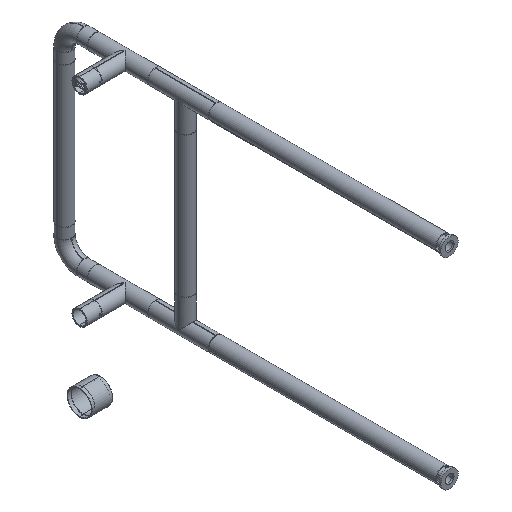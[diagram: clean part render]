
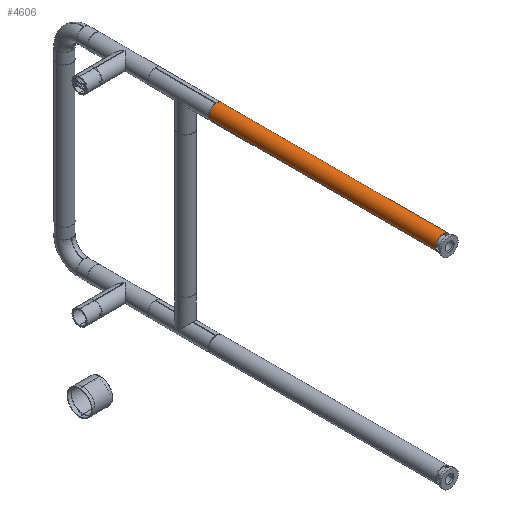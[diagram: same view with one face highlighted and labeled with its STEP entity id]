
A CAD part, isometric view. The second image highlights one B-rep face of the part: STEP entity #4606.
In plain terms, the highlighted cylindrical face has radius 17.5 mm (diameter 35 mm), a partial arc.
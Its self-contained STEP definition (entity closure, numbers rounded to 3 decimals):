
#76 = CARTESIAN_POINT ( 'NONE',  ( -17.5, 0., 262.5 ) ) ;
#363 = CARTESIAN_POINT ( 'NONE',  ( 17.5, 0., 262.5 ) ) ;
#386 = LINE ( 'NONE', #363, #1690 ) ;
#400 = AXIS2_PLACEMENT_3D ( 'NONE', #2979, #2675, #4119 ) ;
#483 = CIRCLE ( 'NONE', #2322, 17.5 ) ;
#491 = CIRCLE ( 'NONE', #571, 17.5 ) ;
#554 = DIRECTION ( 'NONE',  ( 0., 0., 1. ) ) ;
#559 = ORIENTED_EDGE ( 'NONE', *, *, #1473, .T. ) ;
#571 = AXIS2_PLACEMENT_3D ( 'NONE', #4556, #1903, #4587 ) ;
#785 = CARTESIAN_POINT ( 'NONE',  ( -17.5, 0., 262.5 ) ) ;
#880 = EDGE_CURVE ( 'NONE', #2394, #1550, #483, .T. ) ;
#913 = DIRECTION ( 'NONE',  ( 1., 0., 0. ) ) ;
#916 = DIRECTION ( 'NONE',  ( 0., 0., -1. ) ) ;
#1395 = CARTESIAN_POINT ( 'NONE',  ( 17.5, 0., 262.5 ) ) ;
#1473 = EDGE_CURVE ( 'NONE', #2394, #3032, #386, .T. ) ;
#1550 = VERTEX_POINT ( 'NONE', #785 ) ;
#1589 = CARTESIAN_POINT ( 'NONE',  ( -17.5, 0., -262.5 ) ) ;
#1690 = VECTOR ( 'NONE', #4133, 1000. ) ;
#1903 = DIRECTION ( 'NONE',  ( 0., 0., 1. ) ) ;
#2072 = ORIENTED_EDGE ( 'NONE', *, *, #880, .F. ) ;
#2140 = VERTEX_POINT ( 'NONE', #1589 ) ;
#2146 = ORIENTED_EDGE ( 'NONE', *, *, #4080, .T. ) ;
#2274 = CYLINDRICAL_SURFACE ( 'NONE', #400, 17.5 ) ;
#2322 = AXIS2_PLACEMENT_3D ( 'NONE', #3981, #554, #913 ) ;
#2394 = VERTEX_POINT ( 'NONE', #1395 ) ;
#2561 = VECTOR ( 'NONE', #916, 1000. ) ;
#2675 = DIRECTION ( 'NONE',  ( 0., 0., -1. ) ) ;
#2979 = CARTESIAN_POINT ( 'NONE',  ( 0., 0., 262.5 ) ) ;
#3032 = VERTEX_POINT ( 'NONE', #4544 ) ;
#3061 = EDGE_LOOP ( 'NONE', ( #2072, #559, #2146, #4920 ) ) ;
#3388 = FACE_OUTER_BOUND ( 'NONE', #3061, .T. ) ;
#3981 = CARTESIAN_POINT ( 'NONE',  ( 0., 0., 262.5 ) ) ;
#4080 = EDGE_CURVE ( 'NONE', #3032, #2140, #491, .T. ) ;
#4119 = DIRECTION ( 'NONE',  ( -1., 0., 0. ) ) ;
#4133 = DIRECTION ( 'NONE',  ( 0., 0., -1. ) ) ;
#4187 = EDGE_CURVE ( 'NONE', #1550, #2140, #4311, .T. ) ;
#4311 = LINE ( 'NONE', #76, #2561 ) ;
#4544 = CARTESIAN_POINT ( 'NONE',  ( 17.5, 0., -262.5 ) ) ;
#4556 = CARTESIAN_POINT ( 'NONE',  ( 0., 0., -262.5 ) ) ;
#4587 = DIRECTION ( 'NONE',  ( 1., 0., 0. ) ) ;
#4606 = ADVANCED_FACE ( 'NONE', ( #3388 ), #2274, .T. ) ;
#4920 = ORIENTED_EDGE ( 'NONE', *, *, #4187, .F. ) ;
